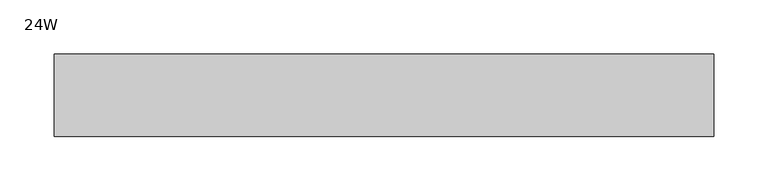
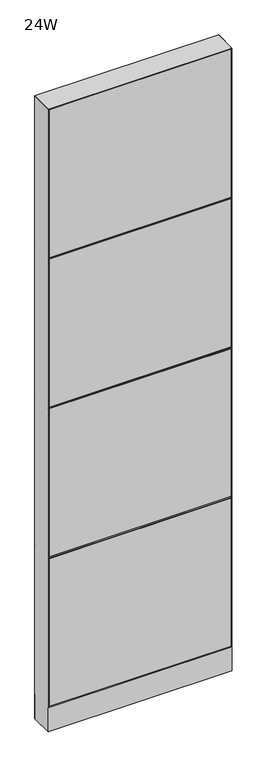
"""IFC4 building model written with IfcOpenShell, lengths in millimetres: furniture geometry, Steelcase - Montage - Frame - 86H - Enhanced Monolithic - Base Cavity : 24W."""

from ifc_helpers import new_model, si_unit, point, frame, frame_2d, origin, origin_with_axes, place, context, project, spatial, polyline, circle_curve, trimmed, segment, composite_curve, outline, extrude, faceted_brep, source, transform, mapped, element, save


def furniture_24w_36258ad4(model_context):
    return source(origin(), model_context, "Body", "SolidModel", [
        faceted_brep([(-5.4e-06, 38.102627, 1136.6500027), (6.3499917, 31.7526299, 1142.9999997), (603.2500047, 31.7526299, 1142.9999997), (609.6, 38.1026253, 1136.6500044), (603.2500047, 31.7526299, 1130.3000003), (6.3499917, 31.7526299, 1130.3000003)], [[[0, 1, 2, 3]], [[3, 4, 5, 0]], [[1, 5, 4, 2]], [[0, 5, 1]], [[2, 4, 3]]]),
        faceted_brep([(-5.4e-06, 38.102627, 612.7750027), (6.3499917, 31.7526299, 619.1249997), (603.2500047, 31.7526299, 619.1249997), (609.6, 38.1026253, 612.7750044), (603.2500047, 31.7526299, 606.4250003), (6.3499917, 31.7526299, 606.4250003)], [[[0, 1, 2, 3]], [[3, 4, 5, 0]], [[1, 5, 4, 2]], [[0, 5, 1]], [[2, 4, 3]]]),
        faceted_brep([(-5.4e-06, 38.102627, 1660.5250027), (6.3499917, 31.7526299, 1666.8749997), (603.2500047, 31.7526299, 1666.8749997), (609.6, 38.1026253, 1660.5250044), (603.2500047, 31.7526299, 1654.1750003), (6.3499917, 31.7526299, 1654.1750003)], [[[0, 1, 2, 3]], [[3, 4, 5, 0]], [[1, 5, 4, 2]], [[0, 5, 1]], [[2, 4, 3]]]),
        extrude(outline(polyline([(3.175, 31.7500194), (3.175, 38.1000194), (606.425, 38.1000194), (606.425, 31.7500194), (3.175, 31.7500194)])), frame((0.0, 0.0, 1663.7), z_axis=(0.0, 0.0, 1.0), x_axis=(1.0, 0.0, 0.0)), (0.0, 0.0, 1.0), 517.525),
        extrude(outline(polyline([(3.175, 31.7500194), (3.175, 38.1000194), (606.425, 38.1000194), (606.425, 31.7500194), (3.175, 31.7500194)])), frame((0.0, 0.0, 92.075), z_axis=(0.0, 0.0, 1.0), x_axis=(1.0, 0.0, 0.0)), (0.0, 0.0, 1.0), 517.525),
        extrude(outline(polyline([(3.175, 31.7500194), (3.175, 38.1000194), (606.425, 38.1000194), (606.425, 31.7500194), (3.175, 31.7500194)])), frame((0.0, 0.0, 615.95), z_axis=(0.0, 0.0, 1.0), x_axis=(1.0, 0.0, 0.0)), (0.0, 0.0, 1.0), 517.525),
        extrude(outline(polyline([(3.175, 31.7500194), (3.175, 38.1000194), (606.425, 38.1000194), (606.425, 31.7500194), (3.175, 31.7500194)])), frame((0.0, 0.0, 1139.825), z_axis=(0.0, 0.0, 1.0), x_axis=(1.0, 0.0, 0.0)), (0.0, 0.0, 1.0), 517.525),
        faceted_brep([(0.0, -38.1026297, 1136.65), (609.6, -38.1026297, 1136.65), (603.2500047, -31.7526299, 1142.9999997), (6.3499917, -31.7526299, 1142.9999997), (6.3499917, -31.7526299, 1130.3000003), (603.2500047, -31.7526299, 1130.3000003)], [[[0, 1, 2, 3]], [[1, 0, 4, 5]], [[3, 2, 5, 4]], [[0, 3, 4]], [[2, 1, 5]]]),
        faceted_brep([(0.0, -38.1026297, 612.775), (609.6, -38.1026297, 612.775), (603.2500047, -31.7526299, 619.1249997), (6.3499917, -31.7526299, 619.1249997), (6.3499917, -31.7526299, 606.4250003), (603.2500047, -31.7526299, 606.4250003)], [[[0, 1, 2, 3]], [[1, 0, 4, 5]], [[3, 2, 5, 4]], [[0, 3, 4]], [[2, 1, 5]]]),
        faceted_brep([(0.0, -38.1026297, 1660.525), (609.6, -38.1026297, 1660.525), (603.2500047, -31.7526299, 1666.8749997), (6.3499917, -31.7526299, 1666.8749997), (6.3499917, -31.7526299, 1654.1750003), (603.2500047, -31.7526299, 1654.1750003)], [[[0, 1, 2, 3]], [[1, 0, 4, 5]], [[3, 2, 5, 4]], [[0, 3, 4]], [[2, 1, 5]]]),
        extrude(outline(polyline([(3.175, -31.7500194), (606.425, -31.7500194), (606.425, -38.1000194), (3.175, -38.1000194), (3.175, -31.7500194)])), frame((0.0, 0.0, 1663.7), z_axis=(0.0, 0.0, 1.0), x_axis=(1.0, 0.0, 0.0)), (0.0, 0.0, 1.0), 517.525),
        extrude(outline(polyline([(3.175, -31.7500194), (606.425, -31.7500194), (606.425, -38.1000194), (3.175, -38.1000194), (3.175, -31.7500194)])), frame((0.0, 0.0, 92.075), z_axis=(0.0, 0.0, 1.0), x_axis=(1.0, 0.0, 0.0)), (0.0, 0.0, 1.0), 517.525),
        extrude(outline(polyline([(3.175, -31.7500194), (606.425, -31.7500194), (606.425, -38.1000194), (3.175, -38.1000194), (3.175, -31.7500194)])), frame((0.0, 0.0, 615.95), z_axis=(0.0, 0.0, 1.0), x_axis=(1.0, 0.0, 0.0)), (0.0, 0.0, 1.0), 517.525),
        extrude(outline(polyline([(3.175, -31.7500194), (606.425, -31.7500194), (606.425, -38.1000194), (3.175, -38.1000194), (3.175, -31.7500194)])), frame((0.0, 0.0, 1139.825), z_axis=(0.0, 0.0, 1.0), x_axis=(1.0, 0.0, 0.0)), (0.0, 0.0, 1.0), 517.525),
        extrude(outline(polyline([(6.350003, -31.7499985), (603.249997, -31.7499985), (609.6, -38.1000015), (0.0, -38.1000015), (6.350003, -31.7499985)])), frame((0.0, 0.0, 4.064), z_axis=(0.0, 0.0, 1.0), x_axis=(1.0, 0.0, 0.0)), (0.0, 0.0, 1.0), 84.835997),
        extrude(outline(polyline([(6.3500002, 31.7500017), (0.0, 38.1000015), (609.6, 38.1000015), (603.2500002, 31.7500017), (6.3500002, 31.7500017)])), frame((0.0, 0.0, 4.064), z_axis=(0.0, 0.0, 1.0), x_axis=(1.0, 0.0, 0.0)), (0.0, 0.0, 1.0), 84.835997),
        faceted_brep([(609.6, -38.1000015, 2184.4), (0.0, -38.1000015, 2184.4), (6.3500484, -31.749953, 2178.0499516), (603.2499516, -31.749953, 2178.0499516), (6.3500484, 31.749953, 2178.0499516), (603.2499516, 31.749953, 2178.0499516), (0.0, 38.1000015, 2184.4), (609.6, 38.1000015, 2184.4)], [[[0, 1, 2, 3]], [[3, 2, 4, 5]], [[6, 7, 5, 4]], [[1, 0, 7, 6]], [[2, 1, 6, 4]], [[0, 3, 5, 7]]]),
        extrude(outline(composite_curve([segment(trimmed(circle_curve(frame_2d((44.45, 0.0)), 15.24), [point((29.21, 0.0))], [point((59.69, 0.0))], False, "CARTESIAN"), True, "CONTINUOUS"), segment(trimmed(circle_curve(frame_2d((44.45, 0.0)), 15.24), [point((59.69, 0.0))], [point((29.21, 0.0))], False, "CARTESIAN"), True, "CONTINUOUS")], self_intersect=False)), origin_with_axes(), (0.0, 0.0, 1.0), 4.064),
        extrude(outline(composite_curve([segment(trimmed(circle_curve(frame_2d((565.15, 0.0)), 15.24), [point((549.91, 0.0))], [point((580.39, 0.0))], False, "CARTESIAN"), True, "CONTINUOUS"), segment(trimmed(circle_curve(frame_2d((565.15, 0.0)), 15.24), [point((580.39, 0.0))], [point((549.91, 0.0))], False, "CARTESIAN"), True, "CONTINUOUS")], self_intersect=False)), origin_with_axes(), (0.0, 0.0, 1.0), 4.064),
        faceted_brep([(609.6, -38.1000106, 4.064), (609.6, 38.1000015, 4.064), (609.6, 38.1000015, 2184.4), (609.6, -38.1000106, 2184.3999637), (0.0, 38.1000015, 4.064), (0.0, -38.1000015, 4.064), (0.0, -38.1000015, 2184.4), (0.0, 38.1000015, 2184.4), (603.2499879, 31.7500017, 606.425), (6.35, 31.7500017, 606.425), (6.3499998, 31.7500017, 619.125), (603.2499879, 31.7500017, 619.125), (6.35, -31.7499985, 619.125), (603.2499879, -31.7499985, 619.125), (6.350003, -31.7499985, 606.425), (603.2499879, -31.7499985, 606.425), (603.2499879, 31.7500017, 1130.3), (6.35, 31.7500017, 1130.3), (6.3499998, 31.7500017, 1143.0), (603.2499879, 31.7500017, 1143.0), (6.35, -31.7499985, 1143.0), (603.2499879, -31.7499985, 1143.0), (6.350003, -31.7499985, 1130.3), (603.2499879, -31.7499985, 1130.3), (603.2499879, 31.7500017, 1654.175), (6.35, 31.7500017, 1654.175), (6.3499998, 31.7500017, 1666.875), (603.2499879, 31.7500017, 1666.875), (6.35, -31.7499985, 1666.875), (603.2499879, -31.7499985, 1666.875), (6.350003, -31.7499985, 1654.175), (603.2499879, -31.7499985, 1654.175), (6.35, 31.7500015, 4.064), (6.35, -31.7500015, 4.064), (603.2499879, 31.7499894, 4.064), (603.2499879, -31.7499985, 4.064), (6.35, 31.7500015, 2178.05), (6.35, -31.7500015, 2178.05), (603.2499879, -31.7499985, 2178.0499516), (603.2499879, 31.7499895, 2178.0499516)], [[[0, 1, 2, 3]], [[4, 5, 6, 7]], [[8, 9, 10, 11]], [[11, 10, 12, 13]], [[13, 12, 14, 15]], [[9, 8, 15, 14]], [[16, 17, 18, 19]], [[19, 18, 20, 21]], [[21, 20, 22, 23]], [[17, 16, 23, 22]], [[24, 25, 26, 27]], [[27, 26, 28, 29]], [[29, 28, 30, 31]], [[25, 24, 31, 30]], [[32, 33, 5, 4]], [[34, 1, 0, 35]], [[32, 4, 7, 36, 26, 25, 18, 17, 10, 9]], [[5, 33, 14, 12, 22, 20, 30, 28, 37, 6]], [[33, 32, 9, 14]], [[10, 17, 22, 12]], [[18, 25, 30, 20]], [[28, 26, 36, 37]], [[34, 35, 15, 8]], [[16, 11, 13, 23]], [[24, 19, 21, 31]], [[27, 29, 38, 39]], [[35, 0, 3, 38, 29, 31, 21, 23, 13, 15]], [[1, 34, 8, 11, 16, 19, 24, 27, 39, 2]], [[7, 6, 37, 36]], [[3, 2, 39, 38]]]),
    ])


if __name__ == "__main__":
    model = new_model("IFC4")
    model_context = context("Model", 3, world=origin())
    ifc_project = project(units=[si_unit("LENGTHUNIT", "METRE", prefix="MILLI")], contexts=[model_context])
    site = spatial("IfcSite", under=ifc_project)
    building = spatial("IfcBuilding", under=site)
    placement = place(None, origin())
    furniture_24w_shape = furniture_24w_36258ad4(model_context)
    element("IfcFurniture", 1, ObjectType="Steelcase - Montage - Frame - 86H - Enhanced Monolithic - Base Cavity : 24W", at=placement, inside=building, context=model_context, shape_type="MappedRepresentation", body=[
        mapped(furniture_24w_shape, transform((0.0, 0.0, 0.0), x_axis=(1.0, 0.0, 0.0), y_axis=(0.0, 1.0, 0.0), z_axis=(0.0, 0.0, 1.0))),
    ])
    save(model, "model.ifc")
